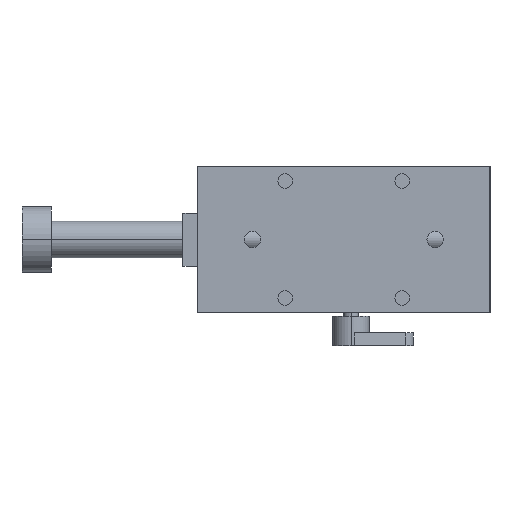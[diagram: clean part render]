
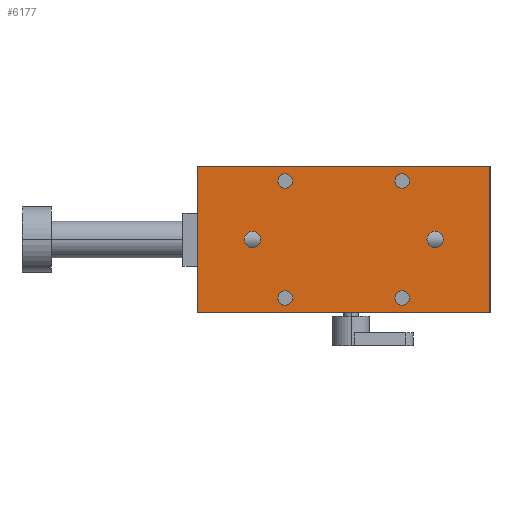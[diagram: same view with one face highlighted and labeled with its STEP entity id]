
A CAD part, front view. The second image highlights one B-rep face of the part: STEP entity #6177.
In plain terms, the highlighted planar face has unit normal (0, -1, 0).
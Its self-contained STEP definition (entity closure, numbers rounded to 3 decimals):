
#63 = EDGE_LOOP ( 'NONE', ( #2674, #6291 ) ) ;
#154 = AXIS2_PLACEMENT_3D ( 'NONE', #1982, #2030, #828 ) ;
#276 = CARTESIAN_POINT ( 'NONE',  ( 16., 0., -18. ) ) ;
#295 = DIRECTION ( 'NONE',  ( 0., 1., 0. ) ) ;
#323 = VERTEX_POINT ( 'NONE', #3109 ) ;
#326 = VERTEX_POINT ( 'NONE', #788 ) ;
#332 = CARTESIAN_POINT ( 'NONE',  ( -25., 0., -2.25 ) ) ;
#376 = CARTESIAN_POINT ( 'NONE',  ( 16., 0., 16. ) ) ;
#390 = DIRECTION ( 'NONE',  ( -1., 0., 0. ) ) ;
#413 = EDGE_CURVE ( 'NONE', #7026, #7269, #7292, .T. ) ;
#414 = CARTESIAN_POINT ( 'NONE',  ( -16., 0., -14. ) ) ;
#563 = EDGE_CURVE ( 'NONE', #323, #6071, #807, .T. ) ;
#583 = ORIENTED_EDGE ( 'NONE', *, *, #1273, .T. ) ;
#611 = CIRCLE ( 'NONE', #7110, 2.25 ) ;
#682 = AXIS2_PLACEMENT_3D ( 'NONE', #2218, #6864, #6283 ) ;
#693 = ORIENTED_EDGE ( 'NONE', *, *, #5684, .T. ) ;
#718 = CARTESIAN_POINT ( 'NONE',  ( -16., 0., 16. ) ) ;
#744 = EDGE_CURVE ( 'NONE', #326, #7477, #611, .T. ) ;
#773 = CIRCLE ( 'NONE', #2129, 2. ) ;
#781 = PLANE ( 'NONE',  #1922 ) ;
#788 = CARTESIAN_POINT ( 'NONE',  ( -25., 0., 2.25 ) ) ;
#807 = CIRCLE ( 'NONE', #2951, 2. ) ;
#817 = EDGE_LOOP ( 'NONE', ( #4652, #1891 ) ) ;
#828 = DIRECTION ( 'NONE',  ( 0., 0., 1. ) ) ;
#870 = DIRECTION ( 'NONE',  ( 0., 1., 0. ) ) ;
#941 = DIRECTION ( 'NONE',  ( 0., 0., 1. ) ) ;
#1086 = VERTEX_POINT ( 'NONE', #276 ) ;
#1098 = CARTESIAN_POINT ( 'NONE',  ( -40., 0., 0. ) ) ;
#1200 = ORIENTED_EDGE ( 'NONE', *, *, #6613, .T. ) ;
#1266 = CARTESIAN_POINT ( 'NONE',  ( -16., 0., 14. ) ) ;
#1273 = EDGE_CURVE ( 'NONE', #3208, #2472, #6050, .T. ) ;
#1349 = VERTEX_POINT ( 'NONE', #5033 ) ;
#1500 = CIRCLE ( 'NONE', #4306, 2. ) ;
#1520 = DIRECTION ( 'NONE',  ( 0., 1., 0. ) ) ;
#1526 = FACE_BOUND ( 'NONE', #1913, .T. ) ;
#1605 = DIRECTION ( 'NONE',  ( 0., 0., 1. ) ) ;
#1807 = FACE_BOUND ( 'NONE', #7449, .T. ) ;
#1850 = LINE ( 'NONE', #6336, #4390 ) ;
#1887 = ORIENTED_EDGE ( 'NONE', *, *, #744, .T. ) ;
#1891 = ORIENTED_EDGE ( 'NONE', *, *, #4430, .T. ) ;
#1913 = EDGE_LOOP ( 'NONE', ( #5516, #583 ) ) ;
#1922 = AXIS2_PLACEMENT_3D ( 'NONE', #5496, #6557, #3662 ) ;
#1982 = CARTESIAN_POINT ( 'NONE',  ( -25., 0., 0. ) ) ;
#2030 = DIRECTION ( 'NONE',  ( 0., 1., 0. ) ) ;
#2129 = AXIS2_PLACEMENT_3D ( 'NONE', #2882, #6953, #2433 ) ;
#2160 = DIRECTION ( 'NONE',  ( 0., 1., 0. ) ) ;
#2169 = ORIENTED_EDGE ( 'NONE', *, *, #6255, .F. ) ;
#2218 = CARTESIAN_POINT ( 'NONE',  ( -16., 0., -16. ) ) ;
#2236 = CARTESIAN_POINT ( 'NONE',  ( -16., 0., 16. ) ) ;
#2256 = AXIS2_PLACEMENT_3D ( 'NONE', #5075, #295, #6158 ) ;
#2313 = AXIS2_PLACEMENT_3D ( 'NONE', #6992, #4006, #7537 ) ;
#2327 = CARTESIAN_POINT ( 'NONE',  ( 25., 0., -2.25 ) ) ;
#2433 = DIRECTION ( 'NONE',  ( 0., 0., 1. ) ) ;
#2449 = ORIENTED_EDGE ( 'NONE', *, *, #5526, .T. ) ;
#2472 = VERTEX_POINT ( 'NONE', #4621 ) ;
#2574 = DIRECTION ( 'NONE',  ( 0., 1., 0. ) ) ;
#2624 = VECTOR ( 'NONE', #4643, 1000. ) ;
#2630 = VECTOR ( 'NONE', #6920, 1000. ) ;
#2674 = ORIENTED_EDGE ( 'NONE', *, *, #7360, .T. ) ;
#2697 = AXIS2_PLACEMENT_3D ( 'NONE', #6040, #2574, #6066 ) ;
#2722 = VERTEX_POINT ( 'NONE', #5956 ) ;
#2754 = EDGE_CURVE ( 'NONE', #6071, #323, #3597, .T. ) ;
#2796 = DIRECTION ( 'NONE',  ( 0., 0., 1. ) ) ;
#2851 = CARTESIAN_POINT ( 'NONE',  ( 40., 0., 20. ) ) ;
#2868 = CARTESIAN_POINT ( 'NONE',  ( -25., 0., 0. ) ) ;
#2882 = CARTESIAN_POINT ( 'NONE',  ( 16., 0., -16. ) ) ;
#2915 = ORIENTED_EDGE ( 'NONE', *, *, #5089, .T. ) ;
#2951 = AXIS2_PLACEMENT_3D ( 'NONE', #2236, #2160, #2796 ) ;
#3109 = CARTESIAN_POINT ( 'NONE',  ( -16., 0., 18. ) ) ;
#3178 = FACE_BOUND ( 'NONE', #6222, .T. ) ;
#3196 = ORIENTED_EDGE ( 'NONE', *, *, #563, .T. ) ;
#3202 = ORIENTED_EDGE ( 'NONE', *, *, #2754, .T. ) ;
#3208 = VERTEX_POINT ( 'NONE', #6930 ) ;
#3408 = VERTEX_POINT ( 'NONE', #414 ) ;
#3479 = AXIS2_PLACEMENT_3D ( 'NONE', #376, #1520, #5657 ) ;
#3597 = CIRCLE ( 'NONE', #4321, 2. ) ;
#3662 = DIRECTION ( 'NONE',  ( 0., 0., 1. ) ) ;
#3721 = DIRECTION ( 'NONE',  ( 0., 0., 1. ) ) ;
#3742 = VERTEX_POINT ( 'NONE', #6012 ) ;
#3806 = CIRCLE ( 'NONE', #2313, 2. ) ;
#3839 = EDGE_CURVE ( 'NONE', #2472, #3208, #7508, .T. ) ;
#3894 = VECTOR ( 'NONE', #390, 1000. ) ;
#3913 = CARTESIAN_POINT ( 'NONE',  ( -40., 0., 20. ) ) ;
#3970 = CARTESIAN_POINT ( 'NONE',  ( 16., 0., -16. ) ) ;
#3977 = LINE ( 'NONE', #2851, #2630 ) ;
#4006 = DIRECTION ( 'NONE',  ( 0., 1., 0. ) ) ;
#4054 = DIRECTION ( 'NONE',  ( 0., 0., 1. ) ) ;
#4256 = CARTESIAN_POINT ( 'NONE',  ( 16., 0., 16. ) ) ;
#4290 = EDGE_CURVE ( 'NONE', #2722, #3742, #1850, .T. ) ;
#4306 = AXIS2_PLACEMENT_3D ( 'NONE', #3970, #5140, #1605 ) ;
#4321 = AXIS2_PLACEMENT_3D ( 'NONE', #718, #870, #941 ) ;
#4390 = VECTOR ( 'NONE', #7553, 1000. ) ;
#4430 = EDGE_CURVE ( 'NONE', #5457, #3408, #4667, .T. ) ;
#4432 = EDGE_CURVE ( 'NONE', #2722, #4550, #3977, .T. ) ;
#4435 = CIRCLE ( 'NONE', #154, 2.25 ) ;
#4442 = LINE ( 'NONE', #6225, #3894 ) ;
#4515 = CIRCLE ( 'NONE', #2697, 2.25 ) ;
#4550 = VERTEX_POINT ( 'NONE', #3913 ) ;
#4621 = CARTESIAN_POINT ( 'NONE',  ( 16., 0., 18. ) ) ;
#4643 = DIRECTION ( 'NONE',  ( 0., 0., -1. ) ) ;
#4652 = ORIENTED_EDGE ( 'NONE', *, *, #6288, .T. ) ;
#4667 = CIRCLE ( 'NONE', #682, 2. ) ;
#4725 = FACE_BOUND ( 'NONE', #6453, .T. ) ;
#5033 = CARTESIAN_POINT ( 'NONE',  ( 16., 0., -14. ) ) ;
#5075 = CARTESIAN_POINT ( 'NONE',  ( 25., 0., 0. ) ) ;
#5089 = EDGE_CURVE ( 'NONE', #4550, #6202, #6070, .T. ) ;
#5096 = AXIS2_PLACEMENT_3D ( 'NONE', #4256, #6057, #3721 ) ;
#5101 = ORIENTED_EDGE ( 'NONE', *, *, #4432, .T. ) ;
#5140 = DIRECTION ( 'NONE',  ( 0., 1., 0. ) ) ;
#5387 = ORIENTED_EDGE ( 'NONE', *, *, #4290, .F. ) ;
#5457 = VERTEX_POINT ( 'NONE', #6011 ) ;
#5496 = CARTESIAN_POINT ( 'NONE',  ( 40., 0., 0. ) ) ;
#5516 = ORIENTED_EDGE ( 'NONE', *, *, #3839, .T. ) ;
#5526 = EDGE_CURVE ( 'NONE', #1349, #1086, #1500, .T. ) ;
#5642 = FACE_OUTER_BOUND ( 'NONE', #7392, .T. ) ;
#5657 = DIRECTION ( 'NONE',  ( 0., 0., 1. ) ) ;
#5684 = EDGE_CURVE ( 'NONE', #1086, #1349, #773, .T. ) ;
#5956 = CARTESIAN_POINT ( 'NONE',  ( 40., 0., 20. ) ) ;
#6011 = CARTESIAN_POINT ( 'NONE',  ( -16., 0., -18. ) ) ;
#6012 = CARTESIAN_POINT ( 'NONE',  ( 40., 0., -20. ) ) ;
#6040 = CARTESIAN_POINT ( 'NONE',  ( 25., 0., 0. ) ) ;
#6050 = CIRCLE ( 'NONE', #3479, 2. ) ;
#6057 = DIRECTION ( 'NONE',  ( 0., 1., 0. ) ) ;
#6066 = DIRECTION ( 'NONE',  ( 0., 0., 1. ) ) ;
#6070 = LINE ( 'NONE', #1098, #2624 ) ;
#6071 = VERTEX_POINT ( 'NONE', #1266 ) ;
#6158 = DIRECTION ( 'NONE',  ( 0., 0., 1. ) ) ;
#6177 = ADVANCED_FACE ( 'NONE', ( #4725, #6901, #6270, #1807, #1526, #3178, #5642 ), #781, .F. ) ;
#6202 = VERTEX_POINT ( 'NONE', #6887 ) ;
#6222 = EDGE_LOOP ( 'NONE', ( #3196, #3202 ) ) ;
#6225 = CARTESIAN_POINT ( 'NONE',  ( 40., 0., -20. ) ) ;
#6255 = EDGE_CURVE ( 'NONE', #3742, #6202, #4442, .T. ) ;
#6270 = FACE_BOUND ( 'NONE', #817, .T. ) ;
#6283 = DIRECTION ( 'NONE',  ( 0., 0., 1. ) ) ;
#6288 = EDGE_CURVE ( 'NONE', #3408, #5457, #3806, .T. ) ;
#6291 = ORIENTED_EDGE ( 'NONE', *, *, #413, .T. ) ;
#6336 = CARTESIAN_POINT ( 'NONE',  ( 40., 0., 0. ) ) ;
#6453 = EDGE_LOOP ( 'NONE', ( #1887, #1200 ) ) ;
#6557 = DIRECTION ( 'NONE',  ( 0., 1., 0. ) ) ;
#6613 = EDGE_CURVE ( 'NONE', #7477, #326, #4435, .T. ) ;
#6864 = DIRECTION ( 'NONE',  ( 0., 1., 0. ) ) ;
#6887 = CARTESIAN_POINT ( 'NONE',  ( -40., 0., -20. ) ) ;
#6901 = FACE_BOUND ( 'NONE', #63, .T. ) ;
#6920 = DIRECTION ( 'NONE',  ( -1., 0., 0. ) ) ;
#6930 = CARTESIAN_POINT ( 'NONE',  ( 16., 0., 14. ) ) ;
#6953 = DIRECTION ( 'NONE',  ( 0., 1., 0. ) ) ;
#6992 = CARTESIAN_POINT ( 'NONE',  ( -16., 0., -16. ) ) ;
#7026 = VERTEX_POINT ( 'NONE', #2327 ) ;
#7110 = AXIS2_PLACEMENT_3D ( 'NONE', #2868, #7564, #4054 ) ;
#7156 = CARTESIAN_POINT ( 'NONE',  ( 25., 0., 2.25 ) ) ;
#7269 = VERTEX_POINT ( 'NONE', #7156 ) ;
#7292 = CIRCLE ( 'NONE', #2256, 2.25 ) ;
#7360 = EDGE_CURVE ( 'NONE', #7269, #7026, #4515, .T. ) ;
#7392 = EDGE_LOOP ( 'NONE', ( #2915, #2169, #5387, #5101 ) ) ;
#7449 = EDGE_LOOP ( 'NONE', ( #2449, #693 ) ) ;
#7477 = VERTEX_POINT ( 'NONE', #332 ) ;
#7508 = CIRCLE ( 'NONE', #5096, 2. ) ;
#7537 = DIRECTION ( 'NONE',  ( 0., 0., 1. ) ) ;
#7553 = DIRECTION ( 'NONE',  ( 0., 0., -1. ) ) ;
#7564 = DIRECTION ( 'NONE',  ( 0., 1., 0. ) ) ;
